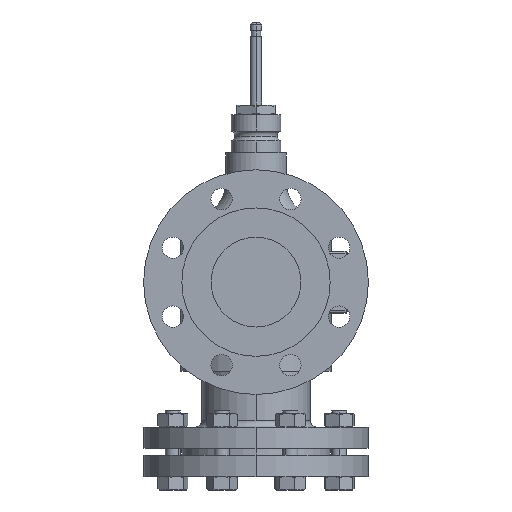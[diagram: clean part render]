
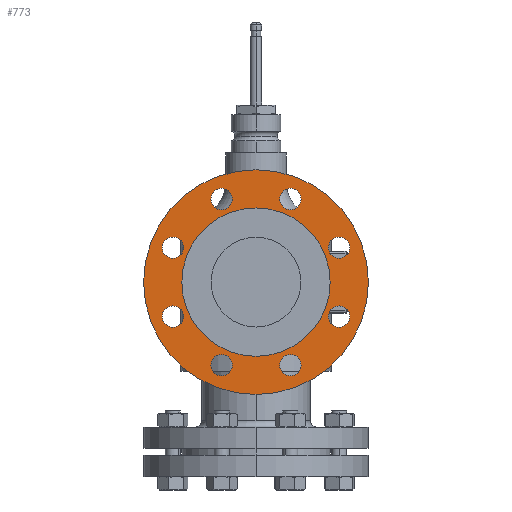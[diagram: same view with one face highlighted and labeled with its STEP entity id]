
A CAD part, front view. The second image highlights one B-rep face of the part: STEP entity #773.
In plain terms, the highlighted planar face has unit normal (0, -1, 0).
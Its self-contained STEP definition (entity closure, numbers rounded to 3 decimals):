
#433=PLANE('',#6773);
#615=FACE_BOUND('',#1644,.T.);
#616=FACE_BOUND('',#1645,.T.);
#617=FACE_BOUND('',#1646,.T.);
#618=FACE_BOUND('',#1647,.T.);
#619=FACE_BOUND('',#1648,.T.);
#620=FACE_BOUND('',#1649,.T.);
#621=FACE_BOUND('',#1650,.T.);
#622=FACE_BOUND('',#1651,.T.);
#623=FACE_BOUND('',#1652,.T.);
#624=FACE_BOUND('',#1653,.T.);
#773=ADVANCED_FACE('',(#615,#616,#617,#618,#619,#620,#621,#622,#623,#624),
#433,.T.);
#1644=EDGE_LOOP('',(#2546,#2547));
#1645=EDGE_LOOP('',(#2548,#2549));
#1646=EDGE_LOOP('',(#2550,#2551));
#1647=EDGE_LOOP('',(#2552,#2553));
#1648=EDGE_LOOP('',(#2554,#2555));
#1649=EDGE_LOOP('',(#2556,#2557));
#1650=EDGE_LOOP('',(#2558,#2559));
#1651=EDGE_LOOP('',(#2560,#2561));
#1652=EDGE_LOOP('',(#2562,#2563));
#1653=EDGE_LOOP('',(#2564,#2565));
#2099=CIRCLE('',#6705,100.);
#2100=CIRCLE('',#6707,66.);
#2105=CIRCLE('',#6714,9.5);
#2107=CIRCLE('',#6717,9.5);
#2109=CIRCLE('',#6720,9.5);
#2111=CIRCLE('',#6723,9.5);
#2113=CIRCLE('',#6726,9.5);
#2115=CIRCLE('',#6729,9.5);
#2117=CIRCLE('',#6732,9.5);
#2119=CIRCLE('',#6735,9.5);
#2120=CIRCLE('',#6737,9.5);
#2122=CIRCLE('',#6740,9.5);
#2124=CIRCLE('',#6743,9.5);
#2126=CIRCLE('',#6746,9.5);
#2128=CIRCLE('',#6749,9.5);
#2130=CIRCLE('',#6752,9.5);
#2132=CIRCLE('',#6755,9.5);
#2134=CIRCLE('',#6758,9.5);
#2139=CIRCLE('',#6765,66.);
#2141=CIRCLE('',#6771,100.);
#2546=ORIENTED_EDGE('',*,*,#5059,.T.);
#2547=ORIENTED_EDGE('',*,*,#5122,.T.);
#2548=ORIENTED_EDGE('',*,*,#5099,.T.);
#2549=ORIENTED_EDGE('',*,*,#5100,.T.);
#2550=ORIENTED_EDGE('',*,*,#5095,.T.);
#2551=ORIENTED_EDGE('',*,*,#5102,.T.);
#2552=ORIENTED_EDGE('',*,*,#5091,.T.);
#2553=ORIENTED_EDGE('',*,*,#5104,.T.);
#2554=ORIENTED_EDGE('',*,*,#5087,.T.);
#2555=ORIENTED_EDGE('',*,*,#5106,.T.);
#2556=ORIENTED_EDGE('',*,*,#5083,.T.);
#2557=ORIENTED_EDGE('',*,*,#5108,.T.);
#2558=ORIENTED_EDGE('',*,*,#5079,.T.);
#2559=ORIENTED_EDGE('',*,*,#5110,.T.);
#2560=ORIENTED_EDGE('',*,*,#5075,.T.);
#2561=ORIENTED_EDGE('',*,*,#5112,.T.);
#2562=ORIENTED_EDGE('',*,*,#5071,.T.);
#2563=ORIENTED_EDGE('',*,*,#5114,.T.);
#2564=ORIENTED_EDGE('',*,*,#5061,.F.);
#2565=ORIENTED_EDGE('',*,*,#5119,.F.);
#4402=VERTEX_POINT('',#9210);
#4404=VERTEX_POINT('',#9214);
#4405=VERTEX_POINT('',#9218);
#4407=VERTEX_POINT('',#9221);
#4414=VERTEX_POINT('',#9237);
#4416=VERTEX_POINT('',#9241);
#4418=VERTEX_POINT('',#9246);
#4420=VERTEX_POINT('',#9250);
#4422=VERTEX_POINT('',#9255);
#4424=VERTEX_POINT('',#9259);
#4426=VERTEX_POINT('',#9264);
#4428=VERTEX_POINT('',#9268);
#4430=VERTEX_POINT('',#9273);
#4432=VERTEX_POINT('',#9277);
#4434=VERTEX_POINT('',#9282);
#4436=VERTEX_POINT('',#9286);
#4438=VERTEX_POINT('',#9291);
#4440=VERTEX_POINT('',#9295);
#4442=VERTEX_POINT('',#9300);
#4444=VERTEX_POINT('',#9304);
#5059=EDGE_CURVE('',#4402,#4404,#2099,.T.);
#5061=EDGE_CURVE('',#4405,#4407,#2100,.T.);
#5071=EDGE_CURVE('',#4414,#4416,#2105,.T.);
#5075=EDGE_CURVE('',#4418,#4420,#2107,.T.);
#5079=EDGE_CURVE('',#4422,#4424,#2109,.T.);
#5083=EDGE_CURVE('',#4426,#4428,#2111,.T.);
#5087=EDGE_CURVE('',#4430,#4432,#2113,.T.);
#5091=EDGE_CURVE('',#4434,#4436,#2115,.T.);
#5095=EDGE_CURVE('',#4438,#4440,#2117,.T.);
#5099=EDGE_CURVE('',#4442,#4444,#2119,.T.);
#5100=EDGE_CURVE('',#4444,#4442,#2120,.T.);
#5102=EDGE_CURVE('',#4440,#4438,#2122,.T.);
#5104=EDGE_CURVE('',#4436,#4434,#2124,.T.);
#5106=EDGE_CURVE('',#4432,#4430,#2126,.T.);
#5108=EDGE_CURVE('',#4428,#4426,#2128,.T.);
#5110=EDGE_CURVE('',#4424,#4422,#2130,.T.);
#5112=EDGE_CURVE('',#4420,#4418,#2132,.T.);
#5114=EDGE_CURVE('',#4416,#4414,#2134,.T.);
#5119=EDGE_CURVE('',#4407,#4405,#2139,.T.);
#5122=EDGE_CURVE('',#4404,#4402,#2141,.T.);
#6705=AXIS2_PLACEMENT_3D('',#9215,#7433,#7434);
#6707=AXIS2_PLACEMENT_3D('',#9220,#7438,#7439);
#6714=AXIS2_PLACEMENT_3D('',#9242,#7457,#7458);
#6717=AXIS2_PLACEMENT_3D('',#9251,#7465,#7466);
#6720=AXIS2_PLACEMENT_3D('',#9260,#7473,#7474);
#6723=AXIS2_PLACEMENT_3D('',#9269,#7481,#7482);
#6726=AXIS2_PLACEMENT_3D('',#9278,#7489,#7490);
#6729=AXIS2_PLACEMENT_3D('',#9287,#7497,#7498);
#6732=AXIS2_PLACEMENT_3D('',#9296,#7505,#7506);
#6735=AXIS2_PLACEMENT_3D('',#9305,#7513,#7514);
#6737=AXIS2_PLACEMENT_3D('',#9307,#7517,#7518);
#6740=AXIS2_PLACEMENT_3D('',#9310,#7523,#7524);
#6743=AXIS2_PLACEMENT_3D('',#9313,#7529,#7530);
#6746=AXIS2_PLACEMENT_3D('',#9316,#7535,#7536);
#6749=AXIS2_PLACEMENT_3D('',#9319,#7541,#7542);
#6752=AXIS2_PLACEMENT_3D('',#9322,#7547,#7548);
#6755=AXIS2_PLACEMENT_3D('',#9325,#7553,#7554);
#6758=AXIS2_PLACEMENT_3D('',#9328,#7559,#7560);
#6765=AXIS2_PLACEMENT_3D('',#9335,#7573,#7574);
#6771=AXIS2_PLACEMENT_3D('',#9342,#7585,#7586);
#6773=AXIS2_PLACEMENT_3D('',#9344,#7589,#7590);
#7433=DIRECTION('',(0.,-1.,0.));
#7434=DIRECTION('',(0.,0.,-1.));
#7438=DIRECTION('',(0.,-1.,0.));
#7439=DIRECTION('',(0.,0.,-1.));
#7457=DIRECTION('',(0.,1.,0.));
#7458=DIRECTION('',(0.,0.,-1.));
#7465=DIRECTION('',(0.,1.,0.));
#7466=DIRECTION('',(0.,0.,-1.));
#7473=DIRECTION('',(0.,1.,0.));
#7474=DIRECTION('',(0.,0.,-1.));
#7481=DIRECTION('',(0.,1.,0.));
#7482=DIRECTION('',(0.,0.,-1.));
#7489=DIRECTION('',(0.,1.,0.));
#7490=DIRECTION('',(0.,0.,-1.));
#7497=DIRECTION('',(0.,1.,0.));
#7498=DIRECTION('',(0.,0.,-1.));
#7505=DIRECTION('',(0.,1.,0.));
#7506=DIRECTION('',(0.,0.,-1.));
#7513=DIRECTION('',(0.,1.,0.));
#7514=DIRECTION('',(0.,0.,-1.));
#7517=DIRECTION('',(0.,1.,0.));
#7518=DIRECTION('',(0.,0.,-1.));
#7523=DIRECTION('',(0.,1.,0.));
#7524=DIRECTION('',(0.,0.,-1.));
#7529=DIRECTION('',(0.,1.,0.));
#7530=DIRECTION('',(0.,0.,-1.));
#7535=DIRECTION('',(0.,1.,0.));
#7536=DIRECTION('',(0.,0.,-1.));
#7541=DIRECTION('',(0.,1.,0.));
#7542=DIRECTION('',(0.,0.,-1.));
#7547=DIRECTION('',(0.,1.,0.));
#7548=DIRECTION('',(0.,0.,-1.));
#7553=DIRECTION('',(0.,1.,0.));
#7554=DIRECTION('',(0.,0.,-1.));
#7559=DIRECTION('',(0.,1.,0.));
#7560=DIRECTION('',(0.,0.,-1.));
#7573=DIRECTION('',(0.,-1.,0.));
#7574=DIRECTION('',(0.,0.,-1.));
#7585=DIRECTION('',(0.,-1.,0.));
#7586=DIRECTION('',(0.,0.,-1.));
#7589=DIRECTION('',(0.,-1.,0.));
#7590=DIRECTION('',(0.,0.,1.));
#9210=CARTESIAN_POINT('',(0.,158.,-100.));
#9214=CARTESIAN_POINT('',(0.,158.,100.));
#9215=CARTESIAN_POINT('',(0.,158.,0.));
#9218=CARTESIAN_POINT('',(0.,158.,-66.));
#9220=CARTESIAN_POINT('',(0.,158.,0.));
#9221=CARTESIAN_POINT('',(0.,158.,66.));
#9237=CARTESIAN_POINT('',(73.91,158.,21.115));
#9241=CARTESIAN_POINT('',(73.91,158.,40.115));
#9242=CARTESIAN_POINT('',(73.91,158.,30.615));
#9246=CARTESIAN_POINT('',(30.615,158.,64.41));
#9250=CARTESIAN_POINT('',(30.615,158.,83.41));
#9251=CARTESIAN_POINT('',(30.615,158.,73.91));
#9255=CARTESIAN_POINT('',(-30.615,158.,64.41));
#9259=CARTESIAN_POINT('',(-30.615,158.,83.41));
#9260=CARTESIAN_POINT('',(-30.615,158.,73.91));
#9264=CARTESIAN_POINT('',(-73.91,158.,-40.115));
#9268=CARTESIAN_POINT('',(-73.91,158.,-21.115));
#9269=CARTESIAN_POINT('',(-73.91,158.,-30.615));
#9273=CARTESIAN_POINT('',(-73.91,158.,21.115));
#9277=CARTESIAN_POINT('',(-73.91,158.,40.115));
#9278=CARTESIAN_POINT('',(-73.91,158.,30.615));
#9282=CARTESIAN_POINT('',(-30.615,158.,-83.41));
#9286=CARTESIAN_POINT('',(-30.615,158.,-64.41));
#9287=CARTESIAN_POINT('',(-30.615,158.,-73.91));
#9291=CARTESIAN_POINT('',(30.615,158.,-83.41));
#9295=CARTESIAN_POINT('',(30.615,158.,-64.41));
#9296=CARTESIAN_POINT('',(30.615,158.,-73.91));
#9300=CARTESIAN_POINT('',(73.91,158.,-40.115));
#9304=CARTESIAN_POINT('',(73.91,158.,-21.115));
#9305=CARTESIAN_POINT('',(73.91,158.,-30.615));
#9307=CARTESIAN_POINT('',(73.91,158.,-30.615));
#9310=CARTESIAN_POINT('',(30.615,158.,-73.91));
#9313=CARTESIAN_POINT('',(-30.615,158.,-73.91));
#9316=CARTESIAN_POINT('',(-73.91,158.,30.615));
#9319=CARTESIAN_POINT('',(-73.91,158.,-30.615));
#9322=CARTESIAN_POINT('',(-30.615,158.,73.91));
#9325=CARTESIAN_POINT('',(30.615,158.,73.91));
#9328=CARTESIAN_POINT('',(73.91,158.,30.615));
#9335=CARTESIAN_POINT('',(0.,158.,0.));
#9342=CARTESIAN_POINT('',(0.,158.,0.));
#9344=CARTESIAN_POINT('',(0.,158.,0.));
